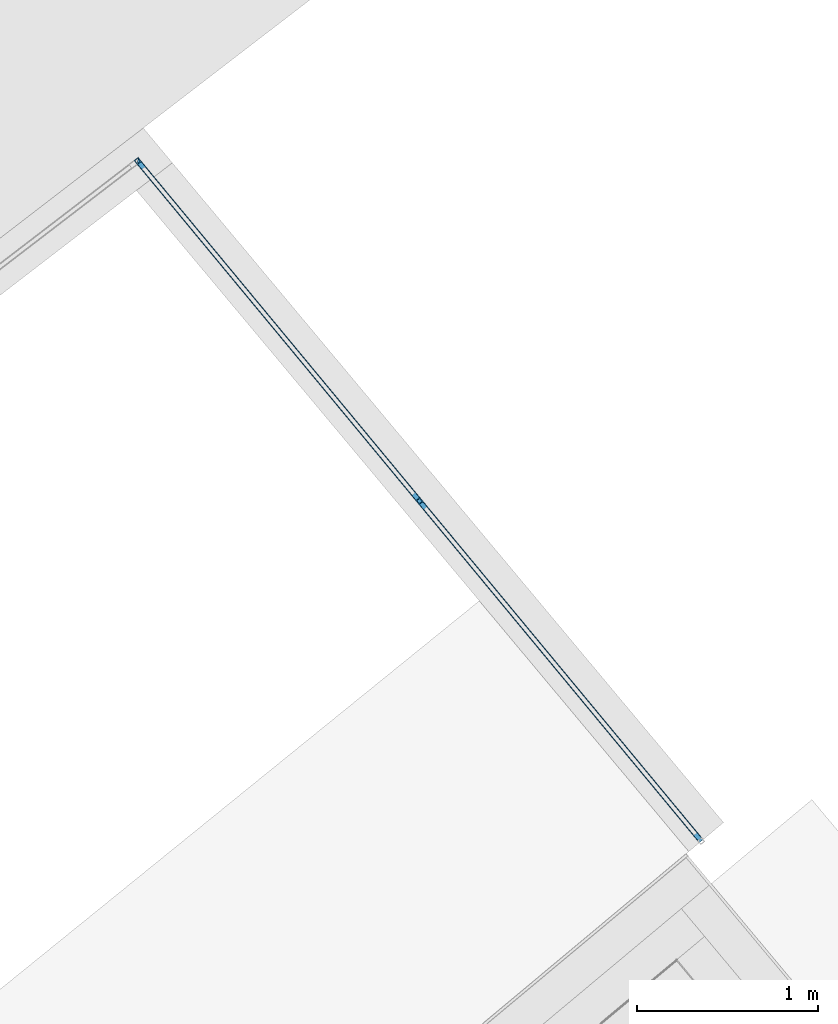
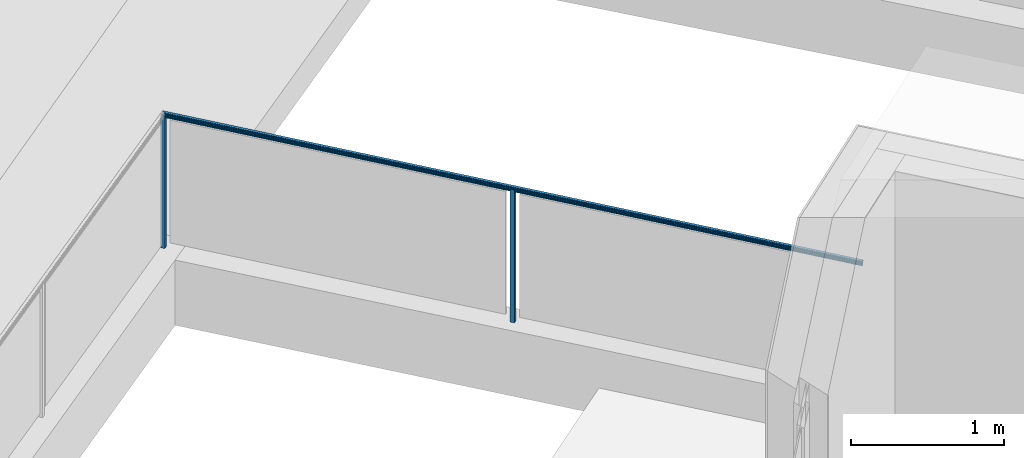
# One storey, part 56 of 75: 3 building element parts, 1 element without a shape of its own.
"""IFC4 building model written with IfcOpenShell, lengths in metres."""

from ifc_helpers import new_model, entity, si_unit, converted_unit, derived_unit, direction, frame, origin_with_axes, place, context, subcontext, project, spatial, polygons, material, type_object, element, aggregate, save


model = new_model("IFC4")

# Units and contexts
model_context = context("Model", 3, precision=1e-05, world=origin_with_axes(), true_north=direction((0.0, 1.0)))
body_context = subcontext(model_context, "Body", "Model", "MODEL_VIEW")
ifc_project = project(units=[si_unit("LENGTHUNIT", "METRE"), si_unit("AREAUNIT", "SQUARE_METRE"), si_unit("VOLUMEUNIT", "CUBIC_METRE"), converted_unit("PLANEANGLEUNIT", "DEGREE", entity("IfcPlaneAngleMeasure", 0.0174532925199), si_unit("PLANEANGLEUNIT", "RADIAN"), dimensions=[0, 0, 0, 0, 0, 0, 0]), converted_unit("TIMEUNIT", "Year", entity("IfcTimeMeasure", 31556926.0), si_unit("TIMEUNIT", "SECOND"), dimensions=[0, 0, 1, 0, 0, 0, 0]), si_unit("MASSUNIT", "GRAM", prefix="KILO"), si_unit("THERMODYNAMICTEMPERATUREUNIT", "DEGREE_CELSIUS"), si_unit("LUMINOUSINTENSITYUNIT", "LUMEN"), si_unit("ENERGYUNIT", "JOULE", prefix="MEGA"), derived_unit("THERMALCONDUCTANCEUNIT", [(si_unit("POWERUNIT", "WATT"), 1), (si_unit("LENGTHUNIT", "METRE"), -1), (si_unit("THERMODYNAMICTEMPERATUREUNIT", "KELVIN"), -1)]), derived_unit("SPECIFICHEATCAPACITYUNIT", [(si_unit("ENERGYUNIT", "JOULE"), 1), (si_unit("MASSUNIT", "GRAM", prefix="KILO"), -1), (si_unit("THERMODYNAMICTEMPERATUREUNIT", "KELVIN"), -1)]), derived_unit("MASSDENSITYUNIT", [(si_unit("MASSUNIT", "GRAM", prefix="KILO"), 1), (si_unit("VOLUMEUNIT", "CUBIC_METRE"), -1)])], contexts=[model_context])

# Site, building, storey
site_placement = place(None, frame((-0.00153261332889, -0.00661245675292, 0.0), z_axis=(0.0, 0.0, 1.0), x_axis=(1.0, 0.0, 0.0)))
site = spatial("IfcSite", under=ifc_project, at=site_placement, Name="Gelände", CompositionType="ELEMENT")
building_placement = place(site_placement, origin_with_axes())
building = spatial("IfcBuilding", under=site, at=building_placement, Name="Gebäude", CompositionType="ELEMENT")
storey_placement = place(building_placement, frame((0.0, 0.0, -0.22), z_axis=(0.0, 0.0, 1.0), x_axis=(1.0, 0.0, 0.0)))
storey = spatial("IfcBuildingStorey", under=building, at=storey_placement, Name="EG", CompositionType="ELEMENT", Elevation=-0.22)

# Railing, building element parts
railing_type = type_object("IfcRailingType", Name="Geländerart", PredefinedType="NOTDEFINED")
railing_placement = place(storey_placement, frame((0.180685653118, 26.4249004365, 0.523948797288), z_axis=(0.0, 0.0, 1.0), x_axis=(1.0, 0.0, 0.0)))
railing = element("IfcRailing", 1, at=railing_placement, inside=storey, type_object=railing_type, Name="Geländer - 001", PredefinedType="NOTDEFINED")
ifc_material = material(Name="Aluminium")
building_element_part_1_placement = place(railing_placement, origin_with_axes())
building_element_part_1 = element("IfcBuildingElementPart", 2, at=building_element_part_1_placement, material=ifc_material, Name="Aluminium", PredefinedType="NOTDEFINED", context=body_context, shape_type="Tessellation", body=[
    polygons([(1.75391347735, 7.7947920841, 0.0), (1.73565892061, 7.81859904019, 0.0), (1.73565892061, 7.81859904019, 1.06), (1.75391347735, 7.7947920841, 1.06), (1.73010652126, 7.77653752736, 0.0), (1.71185196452, 7.80034448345, 0.0), (1.74690322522, 7.79571748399, 0.0), (1.73473352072, 7.81158878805, 0.0), (1.71886221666, 7.79941908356, 0.0), (1.73103192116, 7.7835477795, 0.0), (1.71185196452, 7.80034448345, 1.06), (1.73010652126, 7.77653752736, 1.06), (1.74690322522, 7.79571748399, 1.06), (1.73103192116, 7.7835477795, 1.06), (1.71886221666, 7.79941908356, 1.06), (1.73473352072, 7.81158878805, 1.06)], [[[1, 2, 3, 4]], [[1, 5, 6, 2], [7, 8, 9, 10]], [[2, 6, 11, 3]], [[4, 3, 11, 12], [13, 14, 15, 16]], [[5, 1, 4, 12]], [[6, 5, 12, 11]], [[8, 7, 13, 16]], [[9, 8, 16, 15]], [[10, 9, 15, 14]], [[7, 10, 14, 13]]], closed=True),
])
building_element_part_2_placement = place(railing_placement, origin_with_axes())
building_element_part_2 = element("IfcBuildingElementPart", 3, at=building_element_part_2_placement, material=ifc_material, Name="Aluminium", PredefinedType="NOTDEFINED", context=body_context, shape_type="Tessellation", body=[
    polygons([(1.73130497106, 7.78358685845, 1.07636363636), (1.73126837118, 7.78326252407, 1.07634109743), (4.83338371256, 4.03920104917, 1.07634109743), (4.83356475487, 4.03935105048, 1.07636363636), (1.73130497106, 7.78358685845, 1.07818181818), (1.73131458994, 7.78367209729, 1.07820551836), (1.73182788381, 7.78822071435, 1.0792391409), (1.73234860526, 7.79283515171, 1.07983921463), (1.73287279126, 7.7974802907, 1.08000117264), (1.73288272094, 7.79756828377, 1.08), (1.73289265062, 7.79765627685, 1.08000117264), (1.73341683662, 7.80230141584, 1.07983921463), (1.73393755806, 7.8069158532, 1.0792391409), (1.73445085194, 7.81146447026, 1.07820551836), (1.73446047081, 7.81154970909, 1.07818181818), (1.73446047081, 7.81154970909, 1.07636363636), (1.7344970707, 7.81187404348, 1.07634109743), (1.73463260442, 7.81307509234, 1.0761115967), (1.7347619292, 7.81422111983, 1.07565956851), (1.73488111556, 7.81527730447, 1.07499874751), (1.73498654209, 7.81621155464, 1.0741492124), (1.73507500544, 7.81699548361, 1.07313677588), (1.73514381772, 7.81760527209, 1.07199220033), (1.73519088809, 7.81802239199, 1.07075026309), (1.73521478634, 7.81823416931, 1.06944869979), (1.73521478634, 7.81823416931, 1.06812705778), (1.73519088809, 7.81802239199, 1.06682549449), (1.73514381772, 7.81760527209, 1.06558355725), (1.73507500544, 7.81699548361, 1.06443898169), (1.73498654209, 7.81621155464, 1.06342654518), (1.73488111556, 7.81527730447, 1.06257701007), (1.7347619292, 7.81422111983, 1.06191618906), (1.73463260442, 7.81307509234, 1.06146416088), (1.7344970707, 7.81187404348, 1.06123466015), (1.73446047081, 7.81154970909, 1.06121212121), (1.73446047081, 7.81154970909, 1.05818181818), (1.73443572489, 7.81133042, 1.05810011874), (1.73432044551, 7.8103088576, 1.05758389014), (1.73421625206, 7.80938553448, 1.05688326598), (1.7341263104, 7.80858850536, 1.05601953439), (1.73405335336, 7.80794198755, 1.05501893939), (1.73399959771, 7.80746562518, 1.05391188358), (1.73396667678, 7.80717389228, 1.05273200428), (1.73395559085, 7.80707565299, 1.05151515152), (1.73396667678, 7.80717389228, 1.05029829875), (1.73399959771, 7.80746562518, 1.04911841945), (1.73405335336, 7.80794198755, 1.04801136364), (1.7341263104, 7.80858850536, 1.04701076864), (1.73421625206, 7.80938553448, 1.04614703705), (1.73432044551, 7.8103088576, 1.04544641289), (1.73443572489, 7.81133042, 1.04493018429), (1.73446047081, 7.81154970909, 1.04484848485), (1.73446047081, 7.81154970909, 1.04), (1.73130497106, 7.78358685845, 1.04), (1.73130497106, 7.78358685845, 1.04484848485), (1.73132971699, 7.78380614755, 1.04493018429), (1.73144499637, 7.78482770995, 1.04544641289), (1.73154918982, 7.78575103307, 1.04614703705), (1.73163913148, 7.78654806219, 1.04701076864), (1.73171208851, 7.78719457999, 1.04801136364), (1.73176584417, 7.78767094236, 1.04911841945), (1.7317987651, 7.78796267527, 1.05029829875), (1.73180985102, 7.78806091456, 1.05151515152), (1.7317987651, 7.78796267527, 1.05273200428), (1.73176584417, 7.78767094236, 1.05391188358), (1.73171208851, 7.78719457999, 1.05501893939), (1.73163913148, 7.78654806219, 1.05601953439), (1.73154918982, 7.78575103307, 1.05688326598), (1.73144499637, 7.78482770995, 1.05758389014), (1.73132971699, 7.78380614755, 1.05810011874), (1.73130497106, 7.78358685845, 1.05818181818), (1.73130497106, 7.78358685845, 1.06121212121), (1.73126837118, 7.78326252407, 1.06123466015), (1.73113283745, 7.7820614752, 1.06146416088), (1.73100351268, 7.78091544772, 1.06191618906), (1.73088432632, 7.77985926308, 1.06257701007), (1.73077889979, 7.77892501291, 1.06342654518), (1.73069043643, 7.77814108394, 1.06443898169), (1.73062162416, 7.77753129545, 1.06558355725), (1.73057455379, 7.77711417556, 1.06682549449), (1.73055065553, 7.77690239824, 1.06812705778), (1.73055065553, 7.77690239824, 1.06944869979), (1.73057455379, 7.77711417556, 1.07075026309), (1.73062162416, 7.77753129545, 1.07199220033), (1.73069043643, 7.77814108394, 1.07313677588), (1.73077889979, 7.77892501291, 1.0741492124), (1.73088432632, 7.77985926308, 1.07499874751), (1.73100351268, 7.78091544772, 1.07565956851), (1.73113283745, 7.7820614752, 1.0761115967), (4.83271329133, 4.03864557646, 1.0761115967), (4.83207358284, 4.03811555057, 1.07565956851), (4.83148402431, 4.03762707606, 1.07499874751), (4.83096252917, 4.037194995, 1.0741492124), (4.83052494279, 4.03683243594, 1.07313677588), (4.83018456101, 4.03655041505, 1.07199220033), (4.82995172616, 4.0363575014, 1.07075026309), (4.82983351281, 4.03625955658, 1.06944869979), (4.82983351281, 4.03625955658, 1.06812705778), (4.82995172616, 4.0363575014, 1.06682549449), (4.83018456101, 4.03655041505, 1.06558355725), (4.83052494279, 4.03683243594, 1.06443898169), (4.83096252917, 4.037194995, 1.06342654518), (4.83148402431, 4.03762707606, 1.06257701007), (4.83207358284, 4.03811555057, 1.06191618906), (4.83271329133, 4.03864557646, 1.06146416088), (4.83338371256, 4.03920104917, 1.06123466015), (4.83356475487, 4.03935105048, 1.06121212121), (4.83356475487, 4.03935105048, 1.05818181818), (4.83368716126, 4.03945246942, 1.05810011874), (4.83425739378, 4.0399249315, 1.05758389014), (4.83477278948, 4.04035195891, 1.05688326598), (4.83521768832, 4.04072057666, 1.05601953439), (4.83557857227, 4.04101958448, 1.05501893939), (4.83584447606, 4.04123989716, 1.05391188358), (4.83600732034, 4.04137482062, 1.05273200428), (4.83606215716, 4.04142025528, 1.05151515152), (4.83600732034, 4.04137482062, 1.05029829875), (4.83584447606, 4.04123989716, 1.04911841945), (4.83557857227, 4.04101958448, 1.04801136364), (4.83521768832, 4.04072057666, 1.04701076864), (4.83477278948, 4.04035195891, 1.04614703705), (4.83425739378, 4.0399249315, 1.04544641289), (4.83368716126, 4.03945246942, 1.04493018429), (4.83356475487, 4.03935105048, 1.04484848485), (4.83356475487, 4.03935105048, 1.04), (4.84917351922, 4.05228358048, 1.04), (4.84917351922, 4.05228358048, 1.04484848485), (4.84905111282, 4.05218216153, 1.04493018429), (4.8484808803, 4.05170969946, 1.04544641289), (4.8479654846, 4.05128267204, 1.04614703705), (4.84752058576, 4.0509140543, 1.04701076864), (4.84715970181, 4.05061504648, 1.04801136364), (4.84689379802, 4.0503947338, 1.04911841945), (4.84673095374, 4.05025981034, 1.05029829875), (4.84667611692, 4.05021437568, 1.05151515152), (4.84673095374, 4.05025981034, 1.05273200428), (4.84689379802, 4.0503947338, 1.05391188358), (4.84715970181, 4.05061504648, 1.05501893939), (4.84752058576, 4.0509140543, 1.05601953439), (4.8479654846, 4.05128267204, 1.05688326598), (4.8484808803, 4.05170969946, 1.05758389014), (4.84905111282, 4.05218216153, 1.05810011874), (4.84917351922, 4.05228358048, 1.05818181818), (4.84917351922, 4.05228358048, 1.06121212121), (4.84935456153, 4.05243358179, 1.06123466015), (4.85002498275, 4.0529890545, 1.06146416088), (4.85066469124, 4.05351908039, 1.06191618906), (4.85125424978, 4.0540075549, 1.06257701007), (4.85177574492, 4.05443963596, 1.06342654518), (4.85221333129, 4.05480219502, 1.06443898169), (4.85255371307, 4.05508421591, 1.06558355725), (4.85278654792, 4.05527712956, 1.06682549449), (4.85290476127, 4.05537507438, 1.06812705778), (4.85290476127, 4.05537507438, 1.06944869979), (4.85278654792, 4.05527712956, 1.07075026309), (4.85255371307, 4.05508421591, 1.07199220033), (4.85221333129, 4.05480219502, 1.07313677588), (4.85177574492, 4.05443963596, 1.0741492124), (4.85125424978, 4.0540075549, 1.07499874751), (4.85066469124, 4.05351908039, 1.07565956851), (4.85002498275, 4.0529890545, 1.0761115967), (4.84935456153, 4.05243358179, 1.07634109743), (4.84917351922, 4.05228358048, 1.07636363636), (4.84917351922, 4.05228358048, 1.07818181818), (4.8491259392, 4.0522441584, 1.07820551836), (4.84658691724, 4.05014046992, 1.0792391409), (4.84401115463, 4.04800634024, 1.07983921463), (4.84141825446, 4.04585801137, 1.08000117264), (4.84136913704, 4.04581731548, 1.08), (4.84132001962, 4.04577661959, 1.08000117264), (4.83872711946, 4.04362829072, 1.07983921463), (4.83615135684, 4.04149416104, 1.0792391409), (4.83361233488, 4.03939047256, 1.07820551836), (4.83356475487, 4.03935105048, 1.07818181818)], [[[1, 2, 3, 4]], [[1, 5, 6, 7, 8, 9, 10, 11, 12, 13, 14, 15, 16, 17, 18, 19, 20, 21, 22, 23, 24, 25, 26, 27, 28, 29, 30, 31, 32, 33, 34, 35, 36, 37, 38, 39, 40, 41, 42, 43, 44, 45, 46, 47, 48, 49, 50, 51, 52, 53, 54, 55, 56, 57, 58, 59, 60, 61, 62, 63, 64, 65, 66, 67, 68, 69, 70, 71, 72, 73, 74, 75, 76, 77, 78, 79, 80, 81, 82, 83, 84, 85, 86, 87, 88, 89, 2]], [[2, 89, 90, 3]], [[4, 3, 90, 91, 92, 93, 94, 95, 96, 97, 98, 99, 100, 101, 102, 103, 104, 105, 106, 107, 108, 109, 110, 111, 112, 113, 114, 115, 116, 117, 118, 119, 120, 121, 122, 123, 124, 125, 126, 127, 128, 129, 130, 131, 132, 133, 134, 135, 136, 137, 138, 139, 140, 141, 142, 143, 144, 145, 146, 147, 148, 149, 150, 151, 152, 153, 154, 155, 156, 157, 158, 159, 160, 161, 162, 163, 164, 165, 166, 167, 168, 169, 170, 171, 172, 173, 174]], [[5, 1, 4, 174]], [[6, 5, 174, 173]], [[7, 6, 173, 172]], [[8, 7, 172, 171]], [[9, 8, 171, 170]], [[10, 9, 170, 169]], [[11, 10, 169, 168]], [[12, 11, 168, 167]], [[13, 12, 167, 166]], [[14, 13, 166, 165]], [[15, 14, 165, 164]], [[16, 15, 164, 163]], [[17, 16, 163, 162]], [[18, 17, 162, 161]], [[19, 18, 161, 160]], [[20, 19, 160, 159]], [[21, 20, 159, 158]], [[22, 21, 158, 157]], [[23, 22, 157, 156]], [[24, 23, 156, 155]], [[25, 24, 155, 154]], [[26, 25, 154, 153]], [[27, 26, 153, 152]], [[28, 27, 152, 151]], [[29, 28, 151, 150]], [[30, 29, 150, 149]], [[31, 30, 149, 148]], [[32, 31, 148, 147]], [[33, 32, 147, 146]], [[34, 33, 146, 145]], [[35, 34, 145, 144]], [[36, 35, 144, 143]], [[37, 36, 143, 142]], [[38, 37, 142, 141]], [[39, 38, 141, 140]], [[40, 39, 140, 139]], [[41, 40, 139, 138]], [[42, 41, 138, 137]], [[43, 42, 137, 136]], [[44, 43, 136, 135]], [[45, 44, 135, 134]], [[46, 45, 134, 133]], [[47, 46, 133, 132]], [[48, 47, 132, 131]], [[49, 48, 131, 130]], [[50, 49, 130, 129]], [[51, 50, 129, 128]], [[52, 51, 128, 127]], [[53, 52, 127, 126]], [[54, 53, 126, 125]], [[55, 54, 125, 124]], [[56, 55, 124, 123]], [[57, 56, 123, 122]], [[58, 57, 122, 121]], [[59, 58, 121, 120]], [[60, 59, 120, 119]], [[61, 60, 119, 118]], [[62, 61, 118, 117]], [[63, 62, 117, 116]], [[64, 63, 116, 115]], [[65, 64, 115, 114]], [[66, 65, 114, 113]], [[67, 66, 113, 112]], [[68, 67, 112, 111]], [[69, 68, 111, 110]], [[70, 69, 110, 109]], [[71, 70, 109, 108]], [[72, 71, 108, 107]], [[73, 72, 107, 106]], [[74, 73, 106, 105]], [[75, 74, 105, 104]], [[76, 75, 104, 103]], [[77, 76, 103, 102]], [[78, 77, 102, 101]], [[79, 78, 101, 100]], [[80, 79, 100, 99]], [[81, 80, 99, 98]], [[82, 81, 98, 97]], [[83, 82, 97, 96]], [[84, 83, 96, 95]], [[85, 84, 95, 94]], [[86, 85, 94, 93]], [[87, 86, 93, 92]], [[88, 87, 92, 91]], [[89, 88, 91, 90]]], closed=True),
])
building_element_part_3_placement = place(railing_placement, origin_with_axes())
building_element_part_3 = element("IfcBuildingElementPart", 4, at=building_element_part_3_placement, material=ifc_material, Name="Aluminium", PredefinedType="NOTDEFINED", context=body_context, shape_type="Tessellation", body=[
    polygons([(3.28514551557, 5.9005722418, 0.0), (3.30824648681, 5.91971238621, 0.0), (3.30824648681, 5.91971238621, 1.06), (3.28514551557, 5.9005722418, 1.06), (3.26600537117, 5.92367321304, 0.0), (3.28910634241, 5.94281335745, 0.0), (3.28580565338, 5.90761242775, 0.0), (3.30120630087, 5.92037252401, 0.0), (3.2884462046, 5.93577317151, 0.0), (3.27304555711, 5.92301307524, 0.0), (3.28910634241, 5.94281335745, 1.06), (3.26600537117, 5.92367321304, 1.06), (3.28580565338, 5.90761242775, 1.06), (3.27304555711, 5.92301307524, 1.06), (3.2884462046, 5.93577317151, 1.06), (3.30120630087, 5.92037252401, 1.06)], [[[1, 2, 3, 4]], [[1, 5, 6, 2], [7, 8, 9, 10]], [[2, 6, 11, 3]], [[4, 3, 11, 12], [13, 14, 15, 16]], [[5, 1, 4, 12]], [[6, 5, 12, 11]], [[8, 7, 13, 16]], [[9, 8, 16, 15]], [[10, 9, 15, 14]], [[7, 10, 14, 13]]], closed=True),
])
aggregate(railing, [building_element_part_1, building_element_part_2, building_element_part_3])

save(model, "model.ifc")
